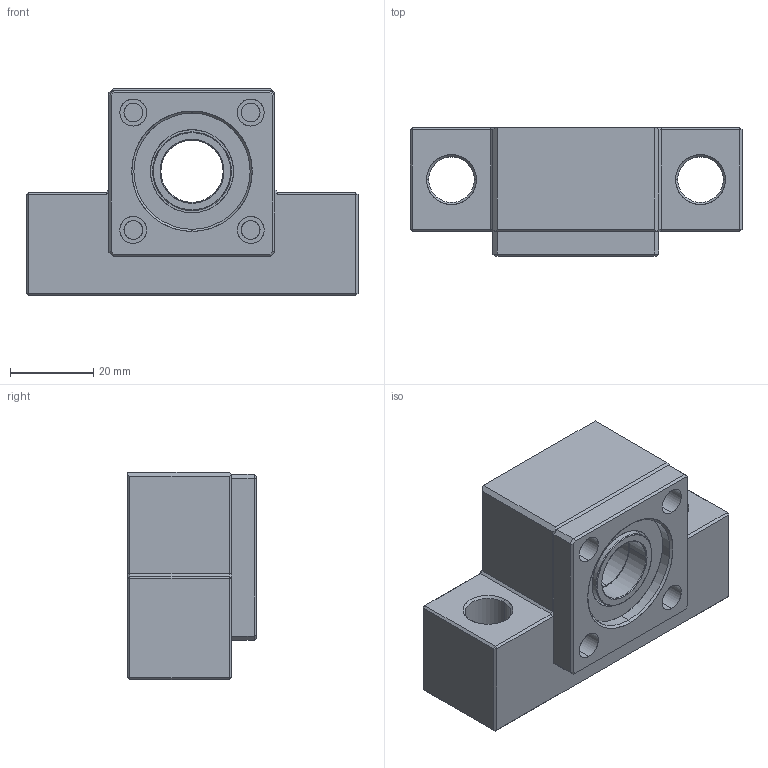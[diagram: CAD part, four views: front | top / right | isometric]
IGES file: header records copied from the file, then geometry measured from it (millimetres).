
Start section: SolidWorks IGES file using analytic representation for surfaces
Global section: file name: E:\同创达图纸\产品示意图\3D选型图\支撑座\EK系列\EK15.IGS; native system: SolidWorks 2012; preprocessor: SolidWorks 2012; author: gao; date: 130702.201010; units: millimetre
Bounding box: 80 x 31 x 50 mm (x, y, z)
Surface area: 18575.7 mm2 (no closed solid volume)
Topology: 0 solids, 0 shells, 148 faces, 1896 edges, 1896 vertices
Faces by surface type: bspline 82, revolution 66
